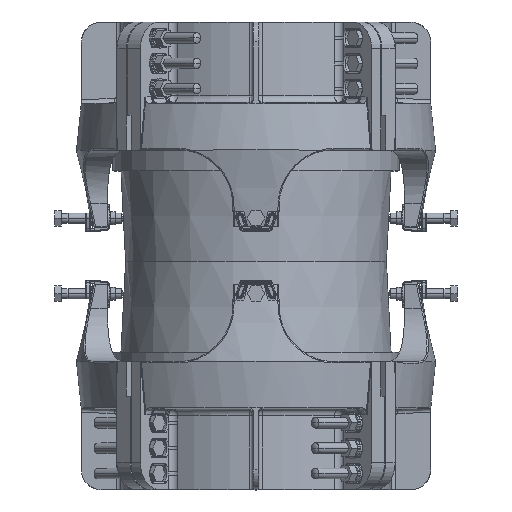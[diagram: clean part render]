
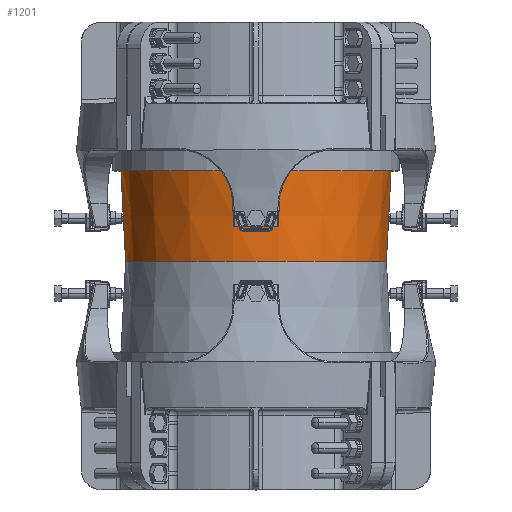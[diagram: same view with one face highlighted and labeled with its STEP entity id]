
A CAD part, top view. The second image highlights one B-rep face of the part: STEP entity #1201.
In plain terms, the highlighted conical face has half-angle 2.981 degrees and reference radius 199.053 mm.
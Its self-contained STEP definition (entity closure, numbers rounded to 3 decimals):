
#368=CARTESIAN_POINT('',(0.,0.,0.));
#369=DIRECTION('',(0.,-1.,0.));
#370=DIRECTION('',(1.,0.,0.));
#371=AXIS2_PLACEMENT_3D('',#368,#369,#370);
#373=DIRECTION('',(-0.052,0.999,0.));
#374=VECTOR('',#373,136.184);
#375=CARTESIAN_POINT('',(-195.511,0.,0.));
#376=LINE('',#375,#374);
#377=DIRECTION('',(0.052,0.999,0.));
#378=VECTOR('',#377,136.184);
#379=CARTESIAN_POINT('',(195.511,0.,0.));
#380=LINE('',#379,#378);
#386=CARTESIAN_POINT('',(0.,136.,0.));
#387=DIRECTION('',(0.,1.,0.));
#388=DIRECTION('',(-1.,0.,0.));
#389=AXIS2_PLACEMENT_3D('',#386,#387,#388);
#542=CARTESIAN_POINT('',(-202.594,136.,0.));
#543=CARTESIAN_POINT('',(202.594,136.,0.));
#544=VERTEX_POINT('',#542);
#545=VERTEX_POINT('',#543);
#558=CARTESIAN_POINT('',(-195.511,0.,
0.));
#559=CARTESIAN_POINT('',(195.511,0.,
0.));
#560=VERTEX_POINT('',#558);
#561=VERTEX_POINT('',#559);
#1187=CARTESIAN_POINT('',(0.,68.,0.));
#1188=DIRECTION('',(0.,1.,0.));
#1189=DIRECTION('',(-1.,0.,0.));
#1190=AXIS2_PLACEMENT_3D('',#1187,#1188,#1189);
#1191=CONICAL_SURFACE('',#1190,199.053,2.981);
#1192=ORIENTED_EDGE('',*,*,#1177,.T.);
#1194=ORIENTED_EDGE('',*,*,#1193,.T.);
#1196=ORIENTED_EDGE('',*,*,#1195,.T.);
#1198=ORIENTED_EDGE('',*,*,#1197,.F.);
#1199=EDGE_LOOP('',(#1192,#1194,#1196,#1198));
#1200=FACE_OUTER_BOUND('',#1199,.F.);
#1201=ADVANCED_FACE('',(#1200),#1191,.T.);
#372=CIRCLE('',#371,195.511);
#390=CIRCLE('',#389,202.594);
#1177=EDGE_CURVE('',#561,#560,#372,.T.);
#1193=EDGE_CURVE('',#560,#544,#376,.T.);
#1195=EDGE_CURVE('',#544,#545,#390,.T.);
#1197=EDGE_CURVE('',#561,#545,#380,.T.);
